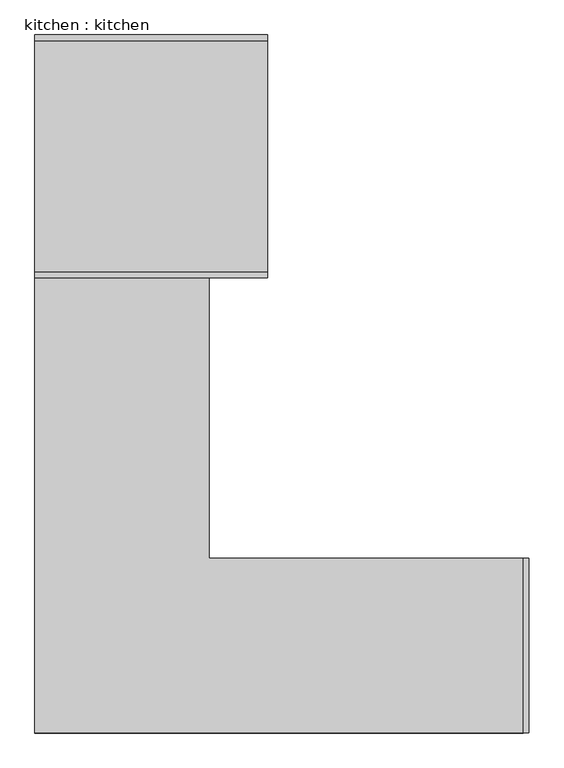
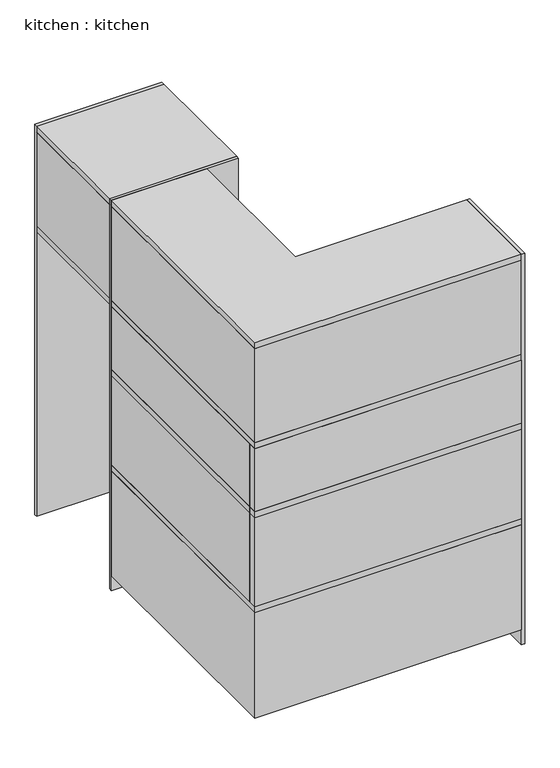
"""IFC4 building model written with IfcOpenShell, lengths in millimetres: proxy geometry, kitchen : kitchen."""

from ifc_helpers import new_model, si_unit, frame, origin, origin_with_axes, place, context, project, spatial, polyline, circle_curve, ellipse_curve, outline, extrude, faceted_brep, source, transform, mapped, element, save
from ifc_brep_helpers import plane_surface, cylinder_surface, advanced_brep


def kitchen_kitchen_3edbeb36(model_context):
    return source(origin(), model_context, "Body", "SolidModel", [
        extrude(outline(polyline([(-972.1161882, -4116.5730324), (-892.1161882, -4116.5730324), (-892.1161882, -5581.0760728), (687.8838118, -5581.0760728), (687.8838118, -5661.0760728), (-972.1161882, -5661.0760728), (-972.1161882, -4116.5730324)])), frame((0.0, 0.0, 1445.0), z_axis=(0.0, 0.0, 1.0), x_axis=(1.0, 0.0, 0.0)), (0.0, 0.0, 1.0), 10.0),
        faceted_brep([(-692.1161882, -5381.0760728, 1475.0), (-692.1161882, -4116.5730324, 1475.0), (-992.1161882, -4116.5730324, 1475.0), (-992.1161882, -5681.0760728, 1475.0), (687.8838118, -5681.0760728, 1475.0), (687.8838118, -5381.0760728, 1475.0), (-692.1161882, -5381.0760728, 1435.0), (687.8838118, -5381.0760728, 1435.0), (687.8838118, -5581.0760728, 1435.0), (-892.1161882, -5581.0760728, 1435.0), (-892.1161882, -4116.5730324, 1435.0), (-692.1161882, -4116.5730324, 1435.0), (687.8838118, -5681.0760728, 1435.0), (-992.1161882, -5681.0760728, 1435.0), (-992.1161882, -4116.5730324, 1435.0), (-972.1161882, -4116.5730324, 1435.0), (-972.1161882, -5661.0760728, 1435.0), (687.8838118, -5661.0760728, 1435.0), (-892.1161882, -4116.5730324, 1455.0), (-972.1161882, -4116.5730324, 1455.0), (687.8838118, -5661.0760728, 1455.0), (687.8838118, -5581.0760728, 1455.0), (-892.1161882, -5581.0760728, 1455.0), (-972.1161882, -5661.0760728, 1455.0)], [[[0, 1, 2, 3, 4, 5]], [[6, 7, 8, 9, 10, 11]], [[12, 13, 14, 15, 16, 17]], [[1, 0, 6, 11]], [[2, 1, 11, 10, 18, 19, 15, 14]], [[3, 2, 14, 13]], [[4, 3, 13, 12]], [[5, 4, 12, 17, 20, 21, 8, 7]], [[0, 5, 7, 6]], [[21, 22, 9, 8]], [[22, 21, 20, 23, 19, 18]], [[23, 20, 17, 16]], [[22, 18, 10, 9]], [[19, 23, 16, 15]]]),
        faceted_brep([(687.8838118, -5626.0760728, 840.0), (-992.1161882, -5626.0760728, 840.0), (-992.1161882, -5626.0760728, 1895.0), (687.8838118, -5626.0760728, 1895.0), (687.8838118, -5626.0760728, 1455.0), (-972.1161882, -5626.0760728, 1455.0), (-972.1161882, -5626.0760728, 1420.0), (687.8838118, -5626.0760728, 1420.0), (687.8838118, -5681.0760728, 1895.0), (-992.1161882, -5681.0760728, 1895.0), (-992.1161882, -5681.0760728, 840.0), (687.8838118, -5681.0760728, 840.0), (687.8838118, -5661.0760728, 1420.0), (687.8838118, -5661.0760728, 1455.0), (-972.1161882, -5661.0760728, 1455.0), (-972.1161882, -5661.0760728, 1420.0)], [[[0, 1, 2, 3, 4, 5, 6, 7]], [[8, 9, 10, 11]], [[8, 11, 0, 7, 12, 13, 4, 3]], [[1, 0, 11, 10]], [[2, 1, 10, 9]], [[3, 2, 9, 8]], [[13, 14, 5, 4]], [[14, 13, 12, 15]], [[15, 12, 7, 6]], [[14, 15, 6, 5]]]),
        extrude(outline(polyline([(-5381.0760728, 1505.0), (-5391.0760728, 1505.0), (-5401.0760728, 1542.3205081), (-5401.0760728, 1890.5480481), (-5381.0760728, 1890.5480481), (-5381.0760728, 1505.0)])), frame((-687.1161882, 0.0, 0.0), z_axis=(1.0, 0.0, 0.0), x_axis=(0.0, 1.0, 0.0)), (0.0, 0.0, 1.0), 340.0),
        extrude(outline(polyline([(-5381.0760728, 1505.0), (-5391.0760728, 1505.0), (-5401.0760728, 1542.3205081), (-5401.0760728, 1890.5480481), (-5381.0760728, 1890.5480481), (-5381.0760728, 1505.0)])), frame((-342.1161882, 0.0, 0.0), z_axis=(1.0, 0.0, 0.0), x_axis=(0.0, 1.0, 0.0)), (0.0, 0.0, 1.0), 337.5),
        extrude(outline(polyline([(-5381.0760728, 1505.0), (-5391.0760728, 1505.0), (-5401.0760728, 1542.3205081), (-5401.0760728, 1890.5480481), (-5381.0760728, 1890.5480481), (-5381.0760728, 1505.0)])), frame((0.3838118, 0.0, 0.0), z_axis=(1.0, 0.0, 0.0), x_axis=(0.0, 1.0, 0.0)), (0.0, 0.0, 1.0), 337.5),
        extrude(outline(polyline([(-5381.0760728, 1505.0), (-5391.0760728, 1505.0), (-5401.0760728, 1542.3205081), (-5401.0760728, 1890.5480481), (-5381.0760728, 1890.5480481), (-5381.0760728, 1505.0)])), frame((342.8838118, 0.0, 0.0), z_axis=(1.0, 0.0, 0.0), x_axis=(0.0, 1.0, 0.0)), (0.0, 0.0, 1.0), 340.0),
        extrude(outline(polyline([(1505.0, -692.1161882), (1890.5480481, -692.1161882), (1890.5480481, -712.1161882), (1542.3205081, -712.1161882), (1505.0, -702.1161882), (1505.0, -692.1161882)])), frame((0.0, -5376.0760728, 0.0), z_axis=(0.0, 1.0, 0.0), x_axis=(0.0, 0.0, 1.0)), (0.0, 0.0, 1.0), 420.0),
        extrude(outline(polyline([(1505.0, -692.1161882), (1890.5480481, -692.1161882), (1890.5480481, -712.1161882), (1542.3205081, -712.1161882), (1505.0, -702.1161882), (1505.0, -692.1161882)])), frame((0.0, -4951.0760728, 0.0), z_axis=(0.0, 1.0, 0.0), x_axis=(0.0, 0.0, 1.0)), (0.0, 0.0, 1.0), 420.0),
        extrude(outline(polyline([(1505.0, -692.1161882), (1890.5480481, -692.1161882), (1890.5480481, -712.1161882), (1542.3205081, -712.1161882), (1505.0, -702.1161882), (1505.0, -692.1161882)])), frame((0.0, -4526.0760728, 0.0), z_axis=(0.0, 1.0, 0.0), x_axis=(0.0, 0.0, 1.0)), (0.0, 0.0, 1.0), 404.5030403),
        extrude(outline(polyline([(-712.1161882, -5401.0760728), (687.8838118, -5401.0760728), (687.8838118, -5681.0760728), (-992.1161882, -5681.0760728), (-992.1161882, -4116.5730324), (-712.1161882, -4116.5730324), (-712.1161882, -5401.0760728)])), frame((0.0, 0.0, 1475.0), z_axis=(0.0, 0.0, 1.0), x_axis=(1.0, 0.0, 0.0)), (0.0, 0.0, 1.0), 419.8149776),
        extrude(outline(polyline([(-987.1161882, -4116.5730324), (-987.1161882, -5626.0760728), (-992.1161882, -5626.0760728), (-992.1161882, -4116.5730324), (-987.1161882, -4116.5730324)])), frame((0.0, 0.0, 840.0), z_axis=(0.0, 0.0, 1.0), x_axis=(1.0, 0.0, 0.0)), (0.0, 0.0, 1.0), 1055.0),
        extrude(outline(polyline([(-462.1161882, -5151.0760728), (687.8838118, -5151.0760728), (687.8838118, -5171.0760728), (-482.1161882, -5171.0760728), (-482.1161882, -4116.5730324), (-462.1161882, -4116.5730324), (-462.1161882, -5151.0760728)])), origin_with_axes(), (0.0, 0.0, 1.0), 100.0),
        faceted_brep([(-412.1161882, -5101.0760728, 800.0), (-412.1161882, -4116.5730324, 800.0), (-992.1161882, -4116.5730324, 800.0), (-992.1161882, -5681.0760728, 800.0), (687.8838118, -5681.0760728, 800.0), (687.8838118, -5101.0760728, 800.0), (670.3838078, -5648.1954756, 800.0), (-374.6161922, -5648.1954756, 800.0), (-374.6161922, -5138.1954756, 800.0), (670.3838078, -5138.1954756, 800.0), (-412.1161882, -5101.0760728, 100.0), (687.8838118, -5101.0760728, 100.0), (687.8838118, -5681.0760728, 100.0), (-992.1161882, -5681.0760728, 100.0), (-992.1161882, -4116.5730324, 100.0), (-412.1161882, -4116.5730324, 100.0), (-374.6161922, -5648.1954756, 502.6794919), (670.3838078, -5648.1954756, 502.6794919), (670.3838078, -5138.1954756, 502.6794919), (-374.6161922, -5138.1954756, 502.6794919)], [[[0, 1, 2, 3, 4, 5], [6, 7, 8, 9]], [[10, 11, 12, 13, 14, 15]], [[1, 0, 10, 15]], [[2, 1, 15, 14]], [[3, 2, 14, 13]], [[4, 3, 13, 12]], [[5, 4, 12, 11]], [[0, 5, 11, 10]], [[16, 17, 18, 19]], [[17, 16, 7, 6]], [[18, 17, 6, 9]], [[19, 18, 9, 8]], [[16, 19, 8, 7]]]),
        advanced_brep(
        [(-992.1161882, -4116.5730324, 840.0), (-992.1161882, -5681.0760728, 840.0), (687.8838118, -5681.0760728, 840.0), (687.8838118, -5086.0760728, 840.0), (-397.1161882, -5086.0760728, 840.0), (-397.1161882, -4116.5730324, 840.0), (670.3838078, -5648.1954756, 840.0), (-374.6161922, -5648.1954756, 840.0), (-374.6161922, -5138.1954756, 840.0), (670.3838078, -5138.1954756, 840.0), (687.8838118, -5681.0760728, 800.0), (-992.1161882, -5681.0760728, 800.0), (-992.1161882, -4116.5730324, 800.0), (-397.1161882, -4116.5730324, 800.0), (-397.1161882, -5086.0760728, 800.0), (687.8838118, -5086.0760728, 800.0), (-374.6161922, -5648.1954756, 800.0), (670.3838078, -5648.1954756, 800.0), (670.3838078, -5138.1954756, 800.0), (-374.6161922, -5138.1954756, 800.0), (-392.1161882, -5081.0760728, 835.0), (-392.1161882, -5081.0760728, 805.0), (-392.1161882, -4116.5730324, 805.0), (-392.1161882, -4116.5730324, 835.0), (687.8838118, -5081.0760728, 805.0), (687.8838118, -5081.0760728, 835.0)],
        [
            (0, 1),
            (1, 2),
            (2, 3),
            (3, 4),
            (4, 5),
            (5, 0),
            (6, 7),
            (7, 8),
            (8, 9),
            (9, 6),
            (10, 11),
            (11, 12),
            (12, 13),
            (13, 14),
            (14, 15),
            (15, 10),
            (16, 17),
            (17, 18),
            (18, 19),
            (19, 16),
            (20, 21),
            (21, 22),
            (22, 23),
            (23, 20),
            (12, 0),
            (5, 23, circle_curve(frame((-397.1161882, -4116.5730324, 835.0), z_axis=(0.0, 1.0, 0.0), x_axis=(-1.0, 0.0, 0.0)), 5.0)),
            (22, 13, circle_curve(frame((-397.1161882, -4116.5730324, 805.0), z_axis=(0.0, 1.0, 0.0), x_axis=(-1.0, 0.0, 0.0)), 5.0)),
            (11, 1),
            (10, 2),
            (15, 24, circle_curve(frame((687.8838118, -5086.0760728, 805.0), z_axis=(1.0, 0.0, 0.0), x_axis=(0.0, -1.0, 0.0)), 5.0)),
            (24, 25),
            (25, 3, circle_curve(frame((687.8838118, -5086.0760728, 835.0), z_axis=(1.0, 0.0, 0.0), x_axis=(0.0, -1.0, 0.0)), 5.0)),
            (20, 25),
            (24, 21),
            (20, 4, ellipse_curve(frame((-397.1161882, -5086.0760728, 835.0), z_axis=(0.7071067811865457, -0.7071067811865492, 0.0), x_axis=(-0.7071067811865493, -0.7071067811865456, 0.0)), 7.0710678, 5.0)),
            (14, 21, ellipse_curve(frame((-397.1161882, -5086.0760728, 805.0), z_axis=(0.7071067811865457, -0.7071067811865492, 0.0), x_axis=(-0.7071067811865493, -0.7071067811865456, 0.0)), 7.0710678, 5.0)),
            (16, 7),
            (6, 17),
            (9, 18),
            (8, 19),
        ],
        [
            plane_surface(frame((-392.1161882, -3281.0760728, 840.0), z_axis=(0.0, 0.0, 1.0), x_axis=(0.0, 1.0, 0.0))),
            plane_surface(frame((-392.1161882, -3281.0760728, 800.0), z_axis=(0.0, 0.0, -1.0), x_axis=(0.0, -1.0, 0.0))),
            plane_surface(frame((-392.1161882, -5081.0760728, 840.0), z_axis=(1.0, 0.0, 0.0), x_axis=(0.0, 0.0, -1.0))),
            plane_surface(frame((-392.1161882, -4116.5730324, 840.0), z_axis=(0.0, 1.0, 0.0), x_axis=(0.0, 0.0, -1.0))),
            plane_surface(frame((-992.1161882, -4116.5730324, 840.0), z_axis=(-1.0, 0.0, 0.0), x_axis=(0.0, 0.0, -1.0))),
            plane_surface(frame((-992.1161882, -5681.0760728, 840.0), z_axis=(0.0, -1.0, 0.0), x_axis=(0.0, 0.0, -1.0))),
            plane_surface(frame((687.8838118, -5681.0760728, 840.0), z_axis=(1.0, 0.0, 0.0), x_axis=(0.0, 0.0, -1.0))),
            plane_surface(frame((687.8838118, -5081.0760728, 840.0), z_axis=(0.0, 1.0, 0.0), x_axis=(0.0, 0.0, -1.0))),
            cylinder_surface(frame((687.8838118, -5086.0760728, 835.0), z_axis=(-1.0, 0.0, 0.0), x_axis=(0.0, -1.0, 0.0)), 5.0),
            cylinder_surface(frame((687.8838118, -5086.0760728, 805.0), z_axis=(-1.0, 0.0, 0.0), x_axis=(0.0, -1.0, 0.0)), 5.0),
            cylinder_surface(frame((-397.1161882, -5081.0760728, 835.0), z_axis=(0.0, 1.0, 0.0), x_axis=(-1.0, 0.0, 0.0)), 5.0),
            cylinder_surface(frame((-397.1161882, -5081.0760728, 805.0), z_axis=(0.0, 1.0, 0.0), x_axis=(-1.0, 0.0, 0.0)), 5.0),
            plane_surface(frame((-374.6161922, -5648.1954756, 1086.925), z_axis=(0.0, 1.0, 0.0), x_axis=(0.0, 0.0, -1.0))),
            plane_surface(frame((670.3838078, -5648.1954756, 1086.925), z_axis=(-1.0, 0.0, 0.0), x_axis=(0.0, 0.0, -1.0))),
            plane_surface(frame((670.3838078, -5138.1954756, 1086.925), z_axis=(0.0, -1.0, 0.0), x_axis=(0.0, 0.0, -1.0))),
            plane_surface(frame((-374.6161922, -5138.1954756, 1086.925), z_axis=(1.0, 0.0, 0.0), x_axis=(0.0, 0.0, -1.0))),
        ],
        [
            (0, [[1, 2, 3, 4, 5, 6], [7, 8, 9, 10]]),
            (1, [[11, 12, 13, 14, 15, 16], [17, 18, 19, 20]]),
            (2, [[21, 22, 23, 24]]),
            (3, [[25, -6, 26, -23, 27, -13]]),
            (4, [[-1, -25, -12, 28]]),
            (5, [[-2, -28, -11, 29]]),
            (6, [[-29, -16, 30, 31, 32, -3]]),
            (7, [[-21, 33, -31, 34]]),
            (8, [[35, -4, -32, -33]]),
            (9, [[36, -34, -30, -15]]),
            (10, [[-35, -24, -26, -5]]),
            (11, [[-36, -14, -27, -22]]),
            (12, [[37, -7, 38, -17]]),
            (13, [[-38, -10, 39, -18]]),
            (14, [[-39, -9, 40, -19]]),
            (15, [[-37, -20, -40, -8]]),
        ],
    ),
        extrude(outline(polyline([(687.8838118, -5081.0760728), (707.8838118, -5081.0760728), (707.8838118, -5681.0760728), (687.8838118, -5681.0760728), (687.8838118, -5081.0760728)])), origin_with_axes(), (0.0, 0.0, 1.0), 2600.0),
        extrude(outline(polyline([(-192.1161882, -3281.0760728), (-192.1161882, -3301.0760728), (-992.1161882, -3301.0760728), (-992.1161882, -3281.0760728), (-192.1161882, -3281.0760728)])), origin_with_axes(), (0.0, 0.0, 1.0), 2600.0),
        extrude(outline(polyline([(-192.1161882, -4096.5730324), (-192.1161882, -4116.5730324), (-992.1161882, -4116.5730324), (-992.1161882, -4096.5730324), (-192.1161882, -4096.5730324)])), origin_with_axes(), (0.0, 0.0, 1.0), 2600.0),
        extrude(outline(polyline([(-212.1161882, -3301.0760728), (-212.1161882, -4096.5730324), (-992.1161882, -4096.5730324), (-992.1161882, -3301.0760728), (-212.1161882, -3301.0760728)])), frame((0.0, 0.0, 1934.8149776), z_axis=(0.0, 0.0, 1.0), x_axis=(1.0, 0.0, 0.0)), (0.0, 0.0, 1.0), 625.1850224),
        extrude(outline(polyline([(1965.0, -192.1161882), (2555.0, -192.1161882), (2555.0, -212.1161882), (2002.3205081, -212.1161882), (1965.0, -202.1161882), (1965.0, -192.1161882)])), frame((0.0, -4091.5730324, 0.0), z_axis=(0.0, 1.0, 0.0), x_axis=(0.0, 0.0, 1.0)), (0.0, 0.0, 1.0), 390.2484798),
        extrude(outline(polyline([(1965.0, -192.1161882), (2555.0, -192.1161882), (2555.0, -212.1161882), (2002.3205081, -212.1161882), (1965.0, -202.1161882), (1965.0, -192.1161882)])), frame((0.0, -3696.3245526, 0.0), z_axis=(0.0, 1.0, 0.0), x_axis=(0.0, 0.0, 1.0)), (0.0, 0.0, 1.0), 390.2484798),
        extrude(outline(polyline([(-5081.0760728, 1965.0), (-5091.0760728, 1965.0), (-5101.0760728, 2002.3205081), (-5101.0760728, 2555.0), (-5081.0760728, 2555.0), (-5081.0760728, 1965.0)])), frame((150.3838118, 0.0, 0.0), z_axis=(1.0, 0.0, 0.0), x_axis=(0.0, 1.0, 0.0)), (0.0, 0.0, 1.0), 532.5),
        extrude(outline(polyline([(-5081.0760728, 1965.0), (-5091.0760728, 1965.0), (-5101.0760728, 2002.3205081), (-5101.0760728, 2555.0), (-5081.0760728, 2555.0), (-5081.0760728, 1965.0)])), frame((-382.1161882, 0.0, 0.0), z_axis=(1.0, 0.0, 0.0), x_axis=(0.0, 1.0, 0.0)), (0.0, 0.0, 1.0), 527.5),
        extrude(outline(polyline([(1965.0, -392.1161882), (2555.0, -392.1161882), (2555.0, -412.1161882), (2002.3205081, -412.1161882), (1965.0, -402.1161882), (1965.0, -392.1161882)])), frame((0.0, -5076.0760728, 0.0), z_axis=(0.0, 1.0, 0.0), x_axis=(0.0, 0.0, 1.0)), (0.0, 0.0, 1.0), 474.7515202),
        extrude(outline(polyline([(1965.0, -392.1161882), (2555.0, -392.1161882), (2555.0, -412.1161882), (2002.3205081, -412.1161882), (1965.0, -402.1161882), (1965.0, -392.1161882)])), frame((0.0, -4596.3245526, 0.0), z_axis=(0.0, 1.0, 0.0), x_axis=(0.0, 0.0, 1.0)), (0.0, 0.0, 1.0), 474.7515202),
        extrude(outline(polyline([(305.0, -392.1161882), (305.0, -402.1161882), (267.6794919, -412.1161882), (105.0, -412.1161882), (105.0, -392.1161882), (305.0, -392.1161882)])), frame((0.0, -4626.4291367, 0.0), z_axis=(0.0, 1.0, 0.0), x_axis=(0.0, 0.0, 1.0)), (0.0, 0.0, 1.0), 504.8561042),
        extrude(outline(polyline([(540.0, -392.1161882), (540.0, -402.1161882), (502.6794919, -412.1161882), (340.0, -412.1161882), (340.0, -392.1161882), (540.0, -392.1161882)])), frame((0.0, -4626.4291367, 0.0), z_axis=(0.0, 1.0, 0.0), x_axis=(0.0, 0.0, 1.0)), (0.0, 0.0, 1.0), 504.8561042),
        extrude(outline(polyline([(770.0, -392.1161882), (770.0, -402.1161882), (732.6794919, -412.1161882), (570.0, -412.1161882), (570.0, -392.1161882), (770.0, -392.1161882)])), frame((0.0, -4626.4291367, 0.0), z_axis=(0.0, 1.0, 0.0), x_axis=(0.0, 0.0, 1.0)), (0.0, 0.0, 1.0), 504.8561042),
        extrude(outline(polyline([(770.0, -392.1161882), (770.0, -402.1161882), (732.6794919, -412.1161882), (105.0, -412.1161882), (105.0, -392.1161882), (770.0, -392.1161882)])), frame((0.0, -5071.0760728, 0.0), z_axis=(0.0, 1.0, 0.0), x_axis=(0.0, 0.0, 1.0)), (0.0, 0.0, 1.0), 439.6469361),
        extrude(outline(polyline([(-5081.0760728, 770.0), (-5081.0760728, 105.0), (-5101.0760728, 105.0), (-5101.0760728, 732.6794919), (-5091.0760728, 770.0), (-5081.0760728, 770.0)])), frame((-382.1161882, 0.0, 0.0), z_axis=(1.0, 0.0, 0.0), x_axis=(0.0, 1.0, 0.0)), (0.0, 0.0, 1.0), 532.5),
        extrude(outline(polyline([(-5081.0760728, 770.0), (-5081.0760728, 105.0), (-5101.0760728, 105.0), (-5101.0760728, 732.6794919), (-5091.0760728, 770.0), (-5081.0760728, 770.0)])), frame((155.3838118, 0.0, 0.0), z_axis=(1.0, 0.0, 0.0), x_axis=(0.0, 1.0, 0.0)), (0.0, 0.0, 1.0), 527.5),
        extrude(outline(polyline([(-412.1161882, -5101.0760728), (687.8838118, -5101.0760728), (687.8838118, -5681.0760728), (-992.1161882, -5681.0760728), (-992.1161882, -4116.5730324), (-412.1161882, -4116.5730324), (-412.1161882, -5101.0760728)])), frame((0.0, 0.0, 1934.8149776), z_axis=(0.0, 0.0, 1.0), x_axis=(1.0, 0.0, 0.0)), (0.0, 0.0, 1.0), 625.1850224),
        extrude(outline(polyline([(-392.1161882, -5081.0760728), (687.8838118, -5081.0760728), (687.8838118, -5681.0760728), (-992.1161882, -5681.0760728), (-992.1161882, -4116.5730324), (-392.1161882, -4116.5730324), (-392.1161882, -5081.0760728)])), frame((0.0, 0.0, 1895.0), z_axis=(0.0, 0.0, 1.0), x_axis=(1.0, 0.0, 0.0)), (0.0, 0.0, 1.0), 40.0),
        extrude(outline(polyline([(-192.1161882, -3301.0760728), (-192.1161882, -4096.5730324), (-992.1161882, -4096.5730324), (-992.1161882, -3301.0760728), (-192.1161882, -3301.0760728)])), frame((0.0, 0.0, 1894.8149776), z_axis=(0.0, 0.0, 1.0), x_axis=(1.0, 0.0, 0.0)), (0.0, 0.0, 1.0), 40.0),
        extrude(outline(polyline([(-192.1161882, -3301.0760728), (-192.1161882, -4096.5730324), (-992.1161882, -4096.5730324), (-992.1161882, -3301.0760728), (-192.1161882, -3301.0760728)])), frame((0.0, 0.0, 2560.0), z_axis=(0.0, 0.0, 1.0), x_axis=(1.0, 0.0, 0.0)), (0.0, 0.0, 1.0), 40.0),
        extrude(outline(polyline([(-392.1161882, -5081.0760728), (687.8838118, -5081.0760728), (687.8838118, -5681.0760728), (-992.1161882, -5681.0760728), (-992.1161882, -4116.5730324), (-392.1161882, -4116.5730324), (-392.1161882, -5081.0760728)])), frame((0.0, 0.0, 2560.0), z_axis=(0.0, 0.0, 1.0), x_axis=(1.0, 0.0, 0.0)), (0.0, 0.0, 1.0), 40.0),
    ])


if __name__ == "__main__":
    model = new_model("IFC4")
    model_context = context("Model", 3, world=origin())
    ifc_project = project(units=[si_unit("LENGTHUNIT", "METRE", prefix="MILLI")], contexts=[model_context])
    site = spatial("IfcSite", under=ifc_project)
    building = spatial("IfcBuilding", under=site)
    placement = place(None, origin())
    kitchen_kitchen_shape = kitchen_kitchen_3edbeb36(model_context)
    element("IfcBuildingElementProxy", 1, Name="kitchen : kitchen", ObjectType="kitchen : kitchen", at=placement, inside=building, context=model_context, shape_type="MappedRepresentation", body=[
        mapped(kitchen_kitchen_shape, transform((0.0, 0.0, 0.0), x_axis=(1.0, 0.0, 0.0), y_axis=(0.0, 1.0, 0.0), z_axis=(0.0, 0.0, 1.0))),
    ])
    save(model, "model.ifc")
